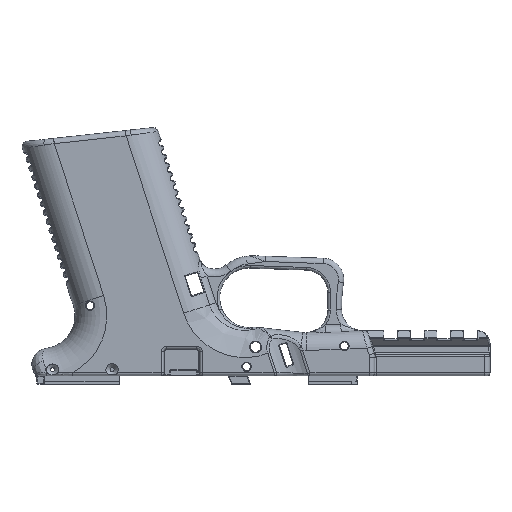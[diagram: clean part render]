
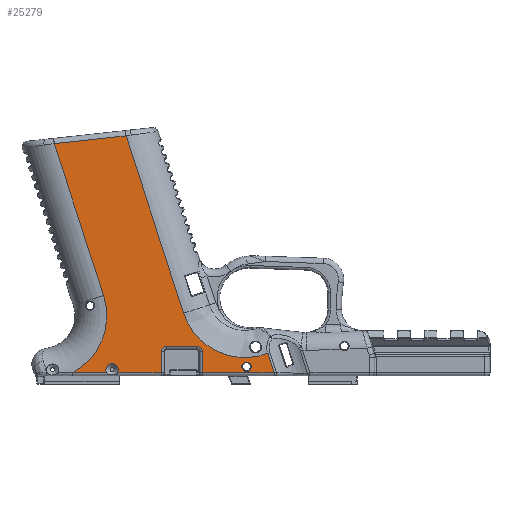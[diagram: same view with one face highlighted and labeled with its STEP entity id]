
A CAD part, front view. The second image highlights one B-rep face of the part: STEP entity #25279.
In plain terms, the highlighted planar face has unit normal (0, -1, 0).
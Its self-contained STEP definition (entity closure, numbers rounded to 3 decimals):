
#1282=FACE_BOUND('',#5088,.T.);
#1299=B_SPLINE_CURVE_WITH_KNOTS('',3,(#37240,#37241,#37242,#37243,#37244,
#37245,#37246),.UNSPECIFIED.,.F.,.F.,(4,1,1,1,4),(0.,0.617,
1.85,3.084,3.929),.UNSPECIFIED.);
#3404=FACE_OUTER_BOUND('',#5087,.T.);
#5087=EDGE_LOOP('',(#20844,#20845,#20846,#20847,#20848,#20849,#20850,#20851,
#20852,#20853,#20854,#20855,#20856,#20857,#20858,#20859));
#5088=EDGE_LOOP('',(#20860));
#6177=CIRCLE('',#26982,2.312);
#6179=CIRCLE('',#26984,2.312);
#6582=CIRCLE('',#27791,1.749);
#6583=CIRCLE('',#27793,2.);
#6584=CIRCLE('',#27794,2.);
#6585=CIRCLE('',#27795,24.459);
#7594=LINE('',#43411,#9031);
#7667=LINE('',#48017,#9104);
#7715=LINE('',#48520,#9152);
#7716=LINE('',#48524,#9153);
#8108=LINE('',#54258,#9545);
#8109=LINE('',#54262,#9546);
#8110=LINE('',#54266,#9547);
#8111=LINE('',#54268,#9548);
#8112=LINE('',#54269,#9549);
#8113=LINE('',#54270,#9550);
#9031=VECTOR('',#30653,10.);
#9104=VECTOR('',#31260,10.);
#9152=VECTOR('',#31462,10.);
#9153=VECTOR('',#31467,10.);
#9545=VECTOR('',#33469,10.);
#9546=VECTOR('',#33472,10.);
#9547=VECTOR('',#33475,10.);
#9548=VECTOR('',#33476,10.);
#9549=VECTOR('',#33477,10.);
#9550=VECTOR('',#33478,10.);
#10256=VERTEX_POINT('',#37237);
#10257=VERTEX_POINT('',#37239);
#10703=VERTEX_POINT('',#43409);
#10930=VERTEX_POINT('',#48014);
#10931=VERTEX_POINT('',#48016);
#10997=VERTEX_POINT('',#48492);
#10998=VERTEX_POINT('',#48493);
#10999=VERTEX_POINT('',#48512);
#11001=VERTEX_POINT('',#48519);
#11002=VERTEX_POINT('',#48522);
#11579=VERTEX_POINT('',#54253);
#11580=VERTEX_POINT('',#54257);
#11581=VERTEX_POINT('',#54259);
#11582=VERTEX_POINT('',#54261);
#11583=VERTEX_POINT('',#54263);
#11584=VERTEX_POINT('',#54265);
#11585=VERTEX_POINT('',#54267);
#12566=EDGE_CURVE('',#10256,#10257,#1299,.T.);
#13264=EDGE_CURVE('',#10703,#10256,#7594,.T.);
#13657=EDGE_CURVE('',#10930,#10931,#7667,.T.);
#13759=EDGE_CURVE('',#10998,#10999,#6177,.T.);
#13762=EDGE_CURVE('',#10999,#10997,#6179,.T.);
#13763=EDGE_CURVE('',#10997,#11001,#7715,.T.);
#13766=EDGE_CURVE('',#11002,#10998,#7716,.T.);
#14782=EDGE_CURVE('',#11579,#11579,#6582,.T.);
#14784=EDGE_CURVE('',#11580,#11002,#8108,.T.);
#14785=EDGE_CURVE('',#11581,#11580,#6583,.T.);
#14786=EDGE_CURVE('',#11582,#11581,#8109,.T.);
#14787=EDGE_CURVE('',#11583,#11582,#6584,.T.);
#14788=EDGE_CURVE('',#11584,#11583,#8110,.T.);
#14789=EDGE_CURVE('',#11585,#11584,#8111,.T.);
#14790=EDGE_CURVE('',#10257,#11585,#8112,.T.);
#14791=EDGE_CURVE('',#10931,#10703,#8113,.T.);
#14792=EDGE_CURVE('',#11001,#10930,#6585,.T.);
#20844=ORIENTED_EDGE('',*,*,#13759,.F.);
#20845=ORIENTED_EDGE('',*,*,#13766,.F.);
#20846=ORIENTED_EDGE('',*,*,#14784,.F.);
#20847=ORIENTED_EDGE('',*,*,#14785,.F.);
#20848=ORIENTED_EDGE('',*,*,#14786,.F.);
#20849=ORIENTED_EDGE('',*,*,#14787,.F.);
#20850=ORIENTED_EDGE('',*,*,#14788,.F.);
#20851=ORIENTED_EDGE('',*,*,#14789,.F.);
#20852=ORIENTED_EDGE('',*,*,#14790,.F.);
#20853=ORIENTED_EDGE('',*,*,#12566,.F.);
#20854=ORIENTED_EDGE('',*,*,#13264,.F.);
#20855=ORIENTED_EDGE('',*,*,#14791,.F.);
#20856=ORIENTED_EDGE('',*,*,#13657,.F.);
#20857=ORIENTED_EDGE('',*,*,#14792,.F.);
#20858=ORIENTED_EDGE('',*,*,#13763,.F.);
#20859=ORIENTED_EDGE('',*,*,#13762,.F.);
#20860=ORIENTED_EDGE('',*,*,#14782,.F.);
#24203=PLANE('',#27792);
#25279=ADVANCED_FACE('',(#3404,#1282),#24203,.F.);
#26982=AXIS2_PLACEMENT_3D('',#48513,#31453,#31454);
#26984=AXIS2_PLACEMENT_3D('',#48517,#31458,#31459);
#27791=AXIS2_PLACEMENT_3D('',#54254,#33464,#33465);
#27792=AXIS2_PLACEMENT_3D('',#54256,#33467,#33468);
#27793=AXIS2_PLACEMENT_3D('',#54260,#33470,#33471);
#27794=AXIS2_PLACEMENT_3D('',#54264,#33473,#33474);
#27795=AXIS2_PLACEMENT_3D('',#54271,#33479,#33480);
#30653=DIRECTION('',(0.309,0.,-0.951));
#31260=DIRECTION('',(-0.309,0.,0.951));
#31453=DIRECTION('center_axis',(0.,-1.,0.));
#31454=DIRECTION('ref_axis',(-1.,0.,0.));
#31458=DIRECTION('center_axis',(0.,-1.,0.));
#31459=DIRECTION('ref_axis',(-1.,0.,0.));
#31462=DIRECTION('',(-1.,0.,0.));
#31467=DIRECTION('',(-1.,0.,0.));
#33464=DIRECTION('center_axis',(0.,-1.,0.));
#33465=DIRECTION('ref_axis',(1.,0.,0.));
#33467=DIRECTION('center_axis',(0.,1.,0.));
#33468=DIRECTION('ref_axis',(1.,0.,0.));
#33469=DIRECTION('',(0.,0.,-1.));
#33470=DIRECTION('center_axis',(0.,-1.,0.));
#33471=DIRECTION('ref_axis',(-0.707,0.,0.707));
#33472=DIRECTION('',(-1.,0.,0.));
#33473=DIRECTION('center_axis',(0.,-1.,0.));
#33474=DIRECTION('ref_axis',(0.707,0.,0.707));
#33475=DIRECTION('',(0.,0.,1.));
#33476=DIRECTION('',(-1.,0.,0.));
#33477=DIRECTION('',(0.309,0.,-0.951));
#33478=DIRECTION('',(0.994,0.,0.108));
#33479=DIRECTION('center_axis',(0.,-1.,0.));
#33480=DIRECTION('ref_axis',(0.864,0.,-0.504));
#37237=CARTESIAN_POINT('',(-22.508,-15.,-16.454));
#37239=CARTESIAN_POINT('',(9.188,-15.,-31.578));
#37240=CARTESIAN_POINT('Ctrl Pts',(-22.508,-15.,-16.454));
#37241=CARTESIAN_POINT('Ctrl Pts',(-21.873,-15.,-18.409));
#37242=CARTESIAN_POINT('Ctrl Pts',(-19.215,-15.,-24.033));
#37243=CARTESIAN_POINT('Ctrl Pts',(-11.431,-15.,-31.249));
#37244=CARTESIAN_POINT('Ctrl Pts',(-0.346,-15.,-33.947));
#37245=CARTESIAN_POINT('Ctrl Pts',(6.557,-15.,-32.587));
#37246=CARTESIAN_POINT('Ctrl Pts',(9.186,-15.,-31.576));
#43409=CARTESIAN_POINT('',(-44.24,-15.,50.429));
#43411=CARTESIAN_POINT('',(-45.977,-15.,55.774));
#48014=CARTESIAN_POINT('',(-52.712,-15.,-9.804));
#48016=CARTESIAN_POINT('',(-71.326,-15.,47.486));
#48017=CARTESIAN_POINT('',(-62.428,-15.,20.099));
#48492=CARTESIAN_POINT('',(-51.487,-15.,-39.));
#48493=CARTESIAN_POINT('',(-47.56,-15.,-39.));
#48512=CARTESIAN_POINT('',(-47.212,-15.,-37.78));
#48513=CARTESIAN_POINT('Origin',(-49.523,-15.,-37.78));
#48517=CARTESIAN_POINT('Origin',(-49.523,-15.,-37.78));
#48519=CARTESIAN_POINT('',(-64.57,-15.,-39.));
#48520=CARTESIAN_POINT('',(48.962,-15.,-39.));
#48522=CARTESIAN_POINT('',(-31.,-15.,-39.));
#48524=CARTESIAN_POINT('',(48.962,-15.,-39.));
#54253=CARTESIAN_POINT('',(-0.551,-15.,-36.614));
#54254=CARTESIAN_POINT('Origin',(1.197,-15.,-36.614));
#54256=CARTESIAN_POINT('Origin',(4.924,-15.,6.92));
#54257=CARTESIAN_POINT('',(-31.,-15.,-31.));
#54258=CARTESIAN_POINT('',(-31.,-15.,-16.54));
#54259=CARTESIAN_POINT('',(-29.,-15.,-29.));
#54260=CARTESIAN_POINT('Origin',(-29.,-15.,-31.));
#54261=CARTESIAN_POINT('',(-17.5,-15.,-29.));
#54262=CARTESIAN_POINT('',(-12.538,-15.,-29.));
#54263=CARTESIAN_POINT('',(-15.5,-15.,-31.));
#54264=CARTESIAN_POINT('Origin',(-17.5,-15.,-31.));
#54265=CARTESIAN_POINT('',(-15.5,-15.,-39.));
#54266=CARTESIAN_POINT('',(-15.5,-15.,-11.54));
#54267=CARTESIAN_POINT('',(11.599,-15.,-39.));
#54268=CARTESIAN_POINT('',(48.962,-15.,-39.));
#54269=CARTESIAN_POINT('',(8.701,-15.,-30.081));
#54270=CARTESIAN_POINT('',(-41.628,-15.,50.713));
#54271=CARTESIAN_POINT('Origin',(-75.974,-15.,-17.362));
